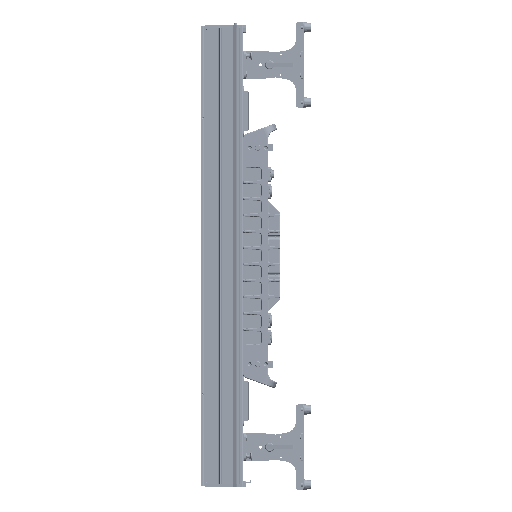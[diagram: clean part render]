
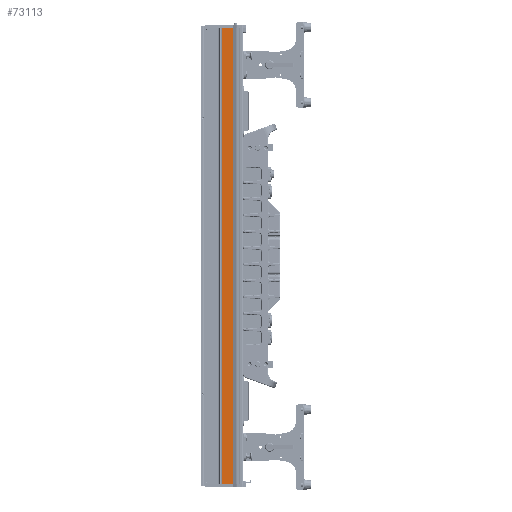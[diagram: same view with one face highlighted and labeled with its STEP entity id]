
A CAD part, left-side view. The second image highlights one B-rep face of the part: STEP entity #73113.
In plain terms, the highlighted planar face has unit normal (-1, 0, 0).
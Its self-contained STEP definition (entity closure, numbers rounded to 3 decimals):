
#1181=DIRECTION('',(0.,-1.,0.));
#1182=VECTOR('',#1181,24.605);
#1183=CARTESIAN_POINT('',(-39.,8.554,-496.));
#1184=LINE('',#1183,#1182);
#2612=DIRECTION('',(0.,1.,0.));
#2613=VECTOR('',#2612,24.605);
#2614=CARTESIAN_POINT('',(-39.,-16.051,496.));
#2615=LINE('',#2614,#2613);
#8016=DIRECTION('',(0.,0.,-1.));
#8017=VECTOR('',#8016,992.);
#8018=CARTESIAN_POINT('',(-39.,8.554,496.));
#8019=LINE('',#8018,#8017);
#8024=DIRECTION('',(0.,0.,1.));
#8025=VECTOR('',#8024,992.);
#8026=CARTESIAN_POINT('',(-39.,-16.051,-496.));
#8027=LINE('',#8026,#8025);
#53943=CARTESIAN_POINT('',(-39.,8.554,-496.));
#53944=VERTEX_POINT('',#53943);
#53945=CARTESIAN_POINT('',(-39.,-16.051,-496.));
#53946=VERTEX_POINT('',#53945);
#55972=CARTESIAN_POINT('',(-39.,-16.051,496.));
#55973=VERTEX_POINT('',#55972);
#55974=CARTESIAN_POINT('',(-39.,8.554,496.));
#55975=VERTEX_POINT('',#55974);
#73101=CARTESIAN_POINT('',(-39.,38.,-496.));
#73102=DIRECTION('',(-1.,0.,0.));
#73103=DIRECTION('',(0.,-1.,0.));
#73104=AXIS2_PLACEMENT_3D('',#73101,#73102,#73103);
#73105=PLANE('',#73104);
#73106=ORIENTED_EDGE('',*,*,#73093,.F.);
#73107=ORIENTED_EDGE('',*,*,#67436,.F.);
#73109=ORIENTED_EDGE('',*,*,#73108,.F.);
#73110=ORIENTED_EDGE('',*,*,#66082,.F.);
#73111=EDGE_LOOP('',(#73106,#73107,#73109,#73110));
#73112=FACE_OUTER_BOUND('',#73111,.F.);
#66082=EDGE_CURVE('',#53944,#53946,#1184,.T.);
#67436=EDGE_CURVE('',#55973,#55975,#2615,.T.);
#73093=EDGE_CURVE('',#55975,#53944,#8019,.T.);
#73108=EDGE_CURVE('',#53946,#55973,#8027,.T.);
#73113=ADVANCED_FACE('',(#73112),#73105,.T.);
